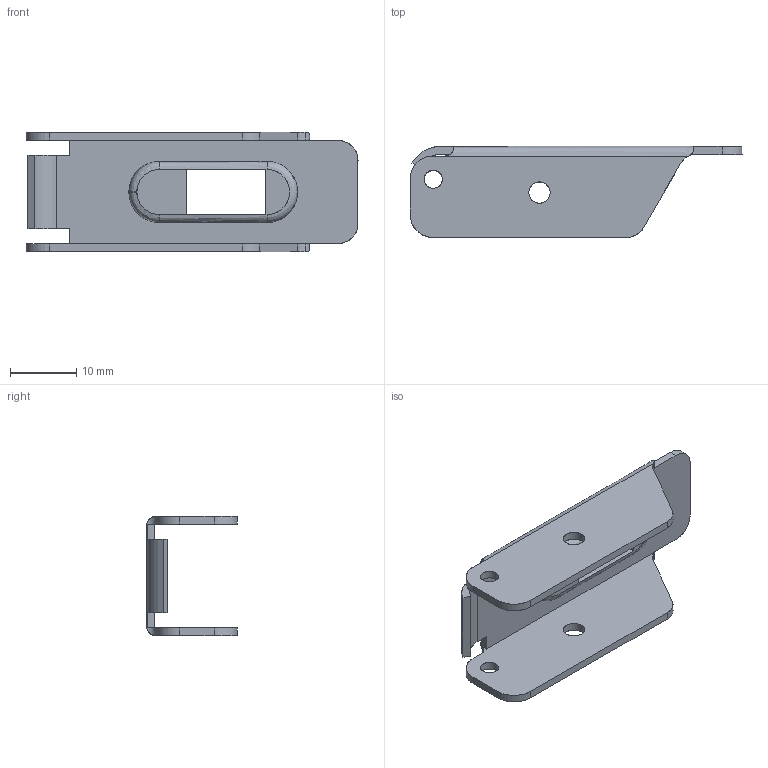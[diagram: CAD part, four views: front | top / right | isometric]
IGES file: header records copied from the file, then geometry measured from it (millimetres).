
Start section: SolidWorks IGES FILE using analytic representation for surfaces
Global section: file name: C:\Documents and Settings\lecoutey\Bureau\GP 2075\2075.010.010.IGS; native system: SolidWorks 2004 by SolidWorks Corporation; preprocessor: Version 5.3; author: lecoutey; date: 050329.161317; units: millimetre
Bounding box: 50 x 13.7 x 18 mm (x, y, z)
Surface area: 3761.3 mm2 (no closed solid volume)
Topology: 0 solids, 0 shells, 80 faces, 991 edges, 991 vertices
Faces by surface type: bspline 44, revolution 36
